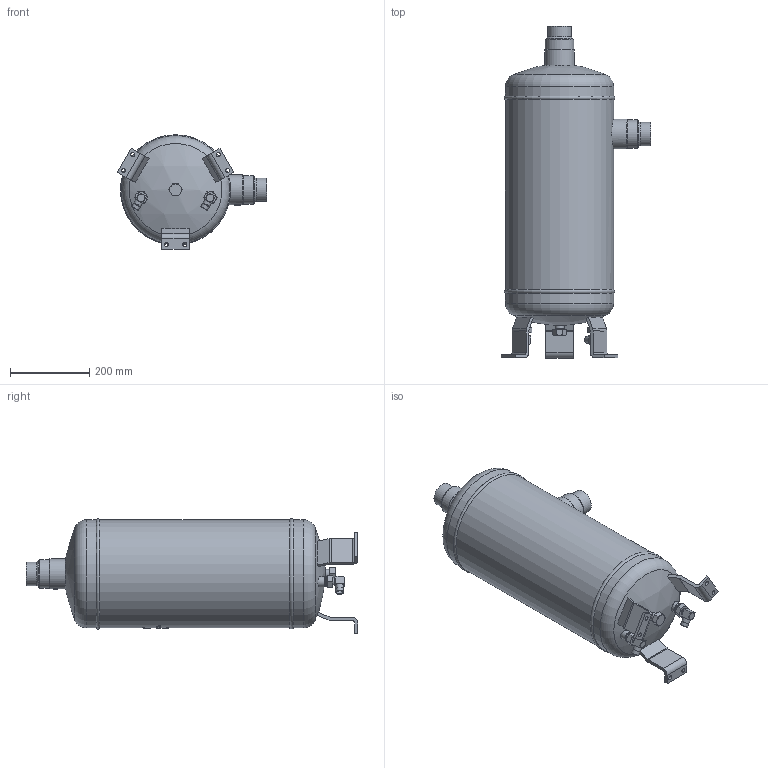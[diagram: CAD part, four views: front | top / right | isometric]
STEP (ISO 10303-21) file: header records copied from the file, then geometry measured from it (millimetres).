
FILE_DESCRIPTION(/* description */ (''),/* implementation_level */ '2;1');
FILE_NAME(/* name */ 'P:\FA\FA-54-32W\FA-54-32W.stp',/* time_stamp */ '2017-12-14T10:27:10+01:00',/* author */ ('neufeld'),/* organization */ (''),/* preprocessor_version */ 'ST-DEVELOPER v16.1',/* originating_system */ 'Autodesk Inventor 2016',/* authorisation */ '');
FILE_SCHEMA (('AUTOMOTIVE_DESIGN { 1 0 10303 214 3 1 1 }'));
Length unit declared in the file: millimetre
Products named in the file (1): FA-54-32W_AG-Kunde
Bounding box: 377.9 x 838.28 x 289.32 mm (x, y, z)
Volume: 37393971.4 mm3; surface area: 763347.6 mm2
Topology: 1 solids, 1 shells, 1467 faces, 3936 edges, 2607 vertices
Faces by surface type: bspline 689, plane 557, cylinder 163, cone 52, torus 4, sphere 2
Full cylindrical faces by diameter (mm): 10.5 x6, 11 x2, 13 x2, 16 x2, 18 x2, 19 x2, 22.5 x3, 25.2 x3, 26 x2, 54.3 x2, 59 x2, 67 x2, 72.5 x2, 75.4 x2, 273.2 x3
Entity records: 59241 total; most frequent: CARTESIAN_POINT 27115, ORIENTED_EDGE 7722, DIRECTION 4541, EDGE_CURVE 3861, VERTEX_POINT 2590, LINE 1795, VECTOR 1795, EDGE_LOOP 1673
